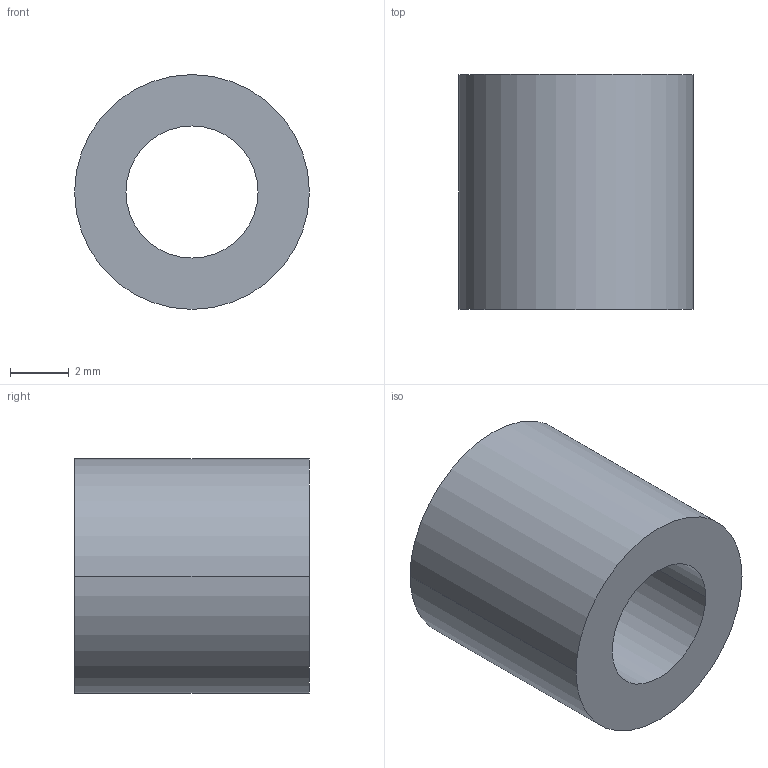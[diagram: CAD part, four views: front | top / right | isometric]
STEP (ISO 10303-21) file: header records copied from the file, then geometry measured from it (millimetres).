
FILE_DESCRIPTION (( 'STEP AP203' ), '1' );
FILE_NAME ('30800.WPP8B4.5.step', '2019-01-23T22:21:10', ( '' ), ( '' ), 'SwSTEP 2.0', 'SolidWorks 2017', '' );
FILE_SCHEMA (( 'CONFIG_CONTROL_DESIGN' ));
Length unit declared in the file: millimetre
Products named in the file (1): 30800.WPP8B4.5
Bounding box: 8 x 8 x 8 mm (x, y, z)
Volume: 271.6 mm3; surface area: 377.3 mm2
Topology: 1 solids, 1 shells, 8 faces, 16 edges, 10 vertices
Faces by surface type: cylinder 4, torus 2, plane 2
Entity records: 297 total; most frequent: DIRECTION 46, CARTESIAN_POINT 35, ORIENTED_EDGE 32, AXIS2_PLACEMENT_3D 21, EDGE_CURVE 16, CIRCLE 12, VERTEX_POINT 10, EDGE_LOOP 10
